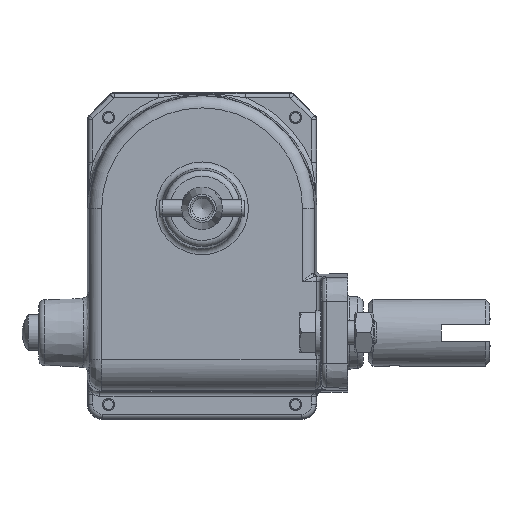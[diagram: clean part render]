
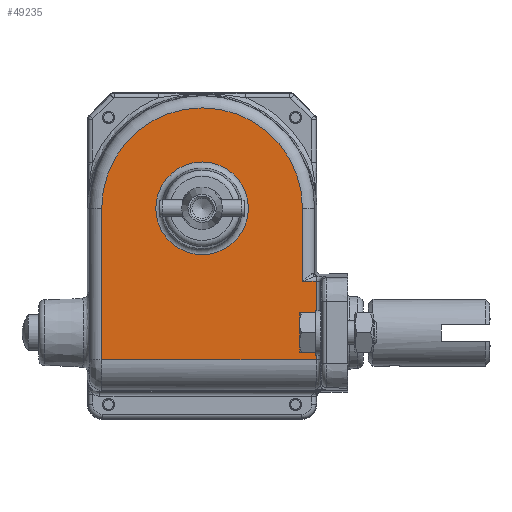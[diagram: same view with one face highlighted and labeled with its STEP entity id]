
A CAD part, left-side view. The second image highlights one B-rep face of the part: STEP entity #49235.
In plain terms, the highlighted planar face has unit normal (-1, 0, 0).
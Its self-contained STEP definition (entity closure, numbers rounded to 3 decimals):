
#1485=PLANE('',#52126);
#2641=LINE('',#63098,#6360);
#2642=LINE('',#63100,#6361);
#2643=LINE('',#63104,#6362);
#2644=LINE('',#63106,#6363);
#2645=LINE('',#63107,#6364);
#6360=VECTOR('',#54581,4.498);
#6361=VECTOR('',#54582,24.087);
#6362=VECTOR('',#54585,49.889);
#6363=VECTOR('',#54586,70.586);
#6364=VECTOR('',#54587,25.92);
#12735=FACE_BOUND('',#16611,.T.);
#13085=CIRCLE('',#52120,15.246);
#13088=CIRCLE('',#52127,33.045);
#13838=FACE_OUTER_BOUND('',#16610,.T.);
#16610=EDGE_LOOP('',(#31885,#31886,#31887,#31888,#31889,#31890));
#16611=EDGE_LOOP('',(#31891));
#19818=VERTEX_POINT('',#63086);
#19821=VERTEX_POINT('',#63096);
#19822=VERTEX_POINT('',#63097);
#19823=VERTEX_POINT('',#63099);
#19824=VERTEX_POINT('',#63101);
#19825=VERTEX_POINT('',#63103);
#19826=VERTEX_POINT('',#63105);
#24665=EDGE_CURVE('',#19818,#19818,#13085,.T.);
#24668=EDGE_CURVE('',#19821,#19822,#2641,.T.);
#24669=EDGE_CURVE('',#19823,#19821,#2642,.T.);
#24670=EDGE_CURVE('',#19824,#19823,#13088,.T.);
#24671=EDGE_CURVE('',#19825,#19824,#2643,.T.);
#24672=EDGE_CURVE('',#19826,#19825,#2644,.T.);
#24673=EDGE_CURVE('',#19822,#19826,#2645,.T.);
#31885=ORIENTED_EDGE('',*,*,#24668,.F.);
#31886=ORIENTED_EDGE('',*,*,#24669,.F.);
#31887=ORIENTED_EDGE('',*,*,#24670,.F.);
#31888=ORIENTED_EDGE('',*,*,#24671,.F.);
#31889=ORIENTED_EDGE('',*,*,#24672,.F.);
#31890=ORIENTED_EDGE('',*,*,#24673,.F.);
#31891=ORIENTED_EDGE('',*,*,#24665,.F.);
#49235=ADVANCED_FACE('',(#13838,#12735),#1485,.F.);
#52120=AXIS2_PLACEMENT_3D('',#63087,#54567,#54568);
#52126=AXIS2_PLACEMENT_3D('',#63095,#54579,#54580);
#52127=AXIS2_PLACEMENT_3D('',#63102,#54583,#54584);
#54567=DIRECTION('center_axis',(-1.,0.,0.));
#54568=DIRECTION('ref_axis',(0.,0.,
-1.));
#54579=DIRECTION('center_axis',(1.,0.,0.));
#54580=DIRECTION('ref_axis',(0.,0.,
-1.));
#54581=DIRECTION('',(0.,-1.,0.026));
#54582=DIRECTION('',(0.,0.,-1.));
#54583=DIRECTION('center_axis',(1.,0.,0.));
#54584=DIRECTION('ref_axis',(0.,0.,
1.));
#54585=DIRECTION('',(0.,0.,1.));
#54586=DIRECTION('',(0.,1.,0.));
#54587=DIRECTION('',(0.,0.,-1.));
#63086=CARTESIAN_POINT('',(-17.8,-40.95,63.233));
#63087=CARTESIAN_POINT('Origin',(-17.8,-40.95,47.988));
#63095=CARTESIAN_POINT('Origin',(-17.8,-40.949,30.634));
#63096=CARTESIAN_POINT('',(-17.8,-73.994,23.9));
#63097=CARTESIAN_POINT('',(-17.8,-78.49,24.018));
#63098=CARTESIAN_POINT('',(-17.8,-73.994,23.9));
#63099=CARTESIAN_POINT('',(-17.8,-73.994,47.988));
#63100=CARTESIAN_POINT('',(-17.8,-73.994,47.988));
#63101=CARTESIAN_POINT('',(-17.8,-7.904,47.988));
#63102=CARTESIAN_POINT('Origin',(-17.8,-40.949,47.988));
#63103=CARTESIAN_POINT('',(-17.8,-7.904,-1.902));
#63104=CARTESIAN_POINT('',(-17.8,-7.904,-1.902));
#63105=CARTESIAN_POINT('',(-17.8,-78.49,-1.902));
#63106=CARTESIAN_POINT('',(-17.8,-78.49,-1.902));
#63107=CARTESIAN_POINT('',(-17.8,-78.49,24.018));
